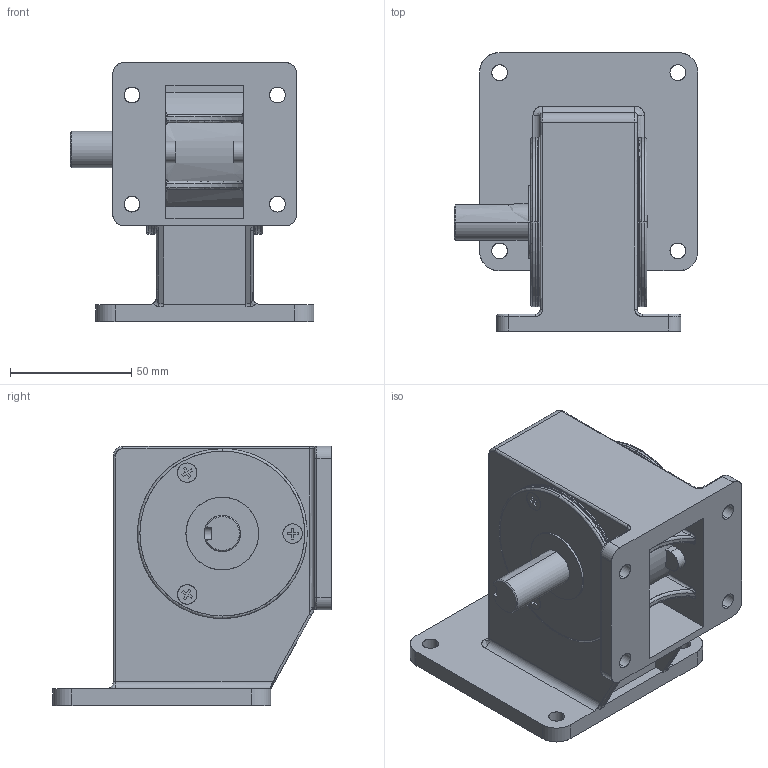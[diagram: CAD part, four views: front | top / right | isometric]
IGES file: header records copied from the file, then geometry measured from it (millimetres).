
Start section: SolidWorks IGES file using analytic representation for surfaces
Global section: file name: C:\Documents and Settings\user\官帕 拳搁\2015 墨呕肺弊 档搁荐沥\权其捞瘤 档搁\12. GEARBOX\(12-19) 9WD∴BR.IGS; native system: SolidWorks 2007; preprocessor: SolidWorks 2007; author: user; date: 150410.142300; units: millimetre
Bounding box: 100.5 x 115 x 107 mm (x, y, z)
Surface area: 67713.7 mm2 (no closed solid volume)
Topology: 0 solids, 0 shells, 346 faces, 4157 edges, 4155 vertices
Faces by surface type: bspline 238, revolution 108
